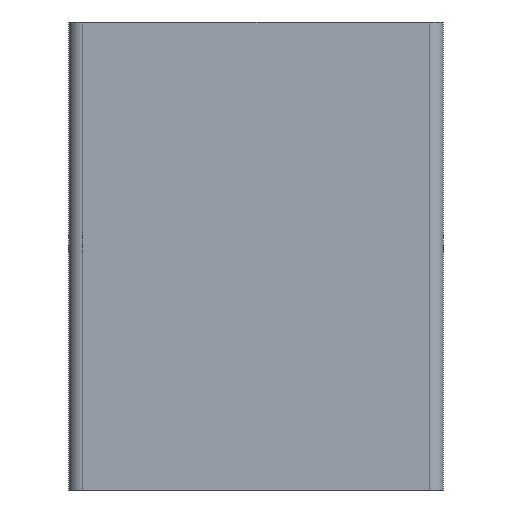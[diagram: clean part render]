
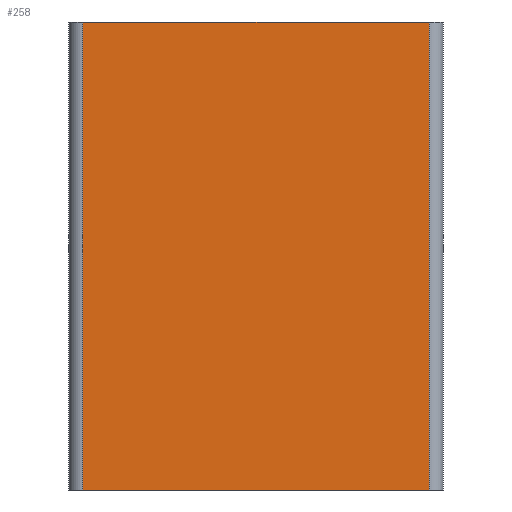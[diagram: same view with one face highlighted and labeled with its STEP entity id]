
A CAD part, left-side view. The second image highlights one B-rep face of the part: STEP entity #258.
In plain terms, the highlighted planar face has unit normal (-1, 0, 0).
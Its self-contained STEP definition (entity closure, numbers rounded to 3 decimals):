
#258=ADVANCED_FACE('',(#576),#577,.F.);
#576=FACE_OUTER_BOUND('',#951,.T.);
#577=PLANE('',#952);
#951=EDGE_LOOP('',(#1716,#1717,#1718,#1719));
#952=AXIS2_PLACEMENT_3D('',#1720,#1721,#1722);
#1716=ORIENTED_EDGE('',*,*,#2652,.T.);
#1717=ORIENTED_EDGE('',*,*,#2653,.F.);
#1718=ORIENTED_EDGE('',*,*,#2615,.F.);
#1719=ORIENTED_EDGE('',*,*,#2654,.T.);
#1720=CARTESIAN_POINT('',(0.,38.5,50.0));
#1721=DIRECTION('',(1.0,0.0,-0.0));
#1722=DIRECTION('',(0.0,0.0,1.0));
#2615=EDGE_CURVE('',#3276,#3278,#3279,.T.);
#2652=EDGE_CURVE('',#3333,#3334,#3335,.T.);
#2653=EDGE_CURVE('',#3278,#3334,#3336,.T.);
#2654=EDGE_CURVE('',#3276,#3333,#3337,.T.);
#3276=VERTEX_POINT('',#4144);
#3278=VERTEX_POINT('',#4146);
#3279=LINE('',#4147,#4148);
#3333=VERTEX_POINT('',#4221);
#3334=VERTEX_POINT('',#4222);
#3335=LINE('',#4223,#4224);
#3336=LINE('',#4225,#4226);
#3337=LINE('',#4227,#4228);
#4144=CARTESIAN_POINT('',(0.,38.5,50.0));
#4146=CARTESIAN_POINT('',(0.,1.5,50.0));
#4147=CARTESIAN_POINT('',(0.,38.5,50.0));
#4148=VECTOR('',#4845,1.0);
#4221=CARTESIAN_POINT('',(0.,38.5,0.0));
#4222=CARTESIAN_POINT('',(0.,1.5,0.0));
#4223=CARTESIAN_POINT('',(0.,38.5,0.0));
#4224=VECTOR('',#4898,1.0);
#4225=CARTESIAN_POINT('',(0.,1.5,50.0));
#4226=VECTOR('',#4899,1.0);
#4227=CARTESIAN_POINT('',(0.,38.5,50.0));
#4228=VECTOR('',#4900,1.0);
#4845=DIRECTION('',(0.0,-1.0,0.0));
#4898=DIRECTION('',(0.0,-1.0,0.0));
#4899=DIRECTION('',(0.0,0.0,-1.0));
#4900=DIRECTION('',(0.0,0.0,-1.0));
